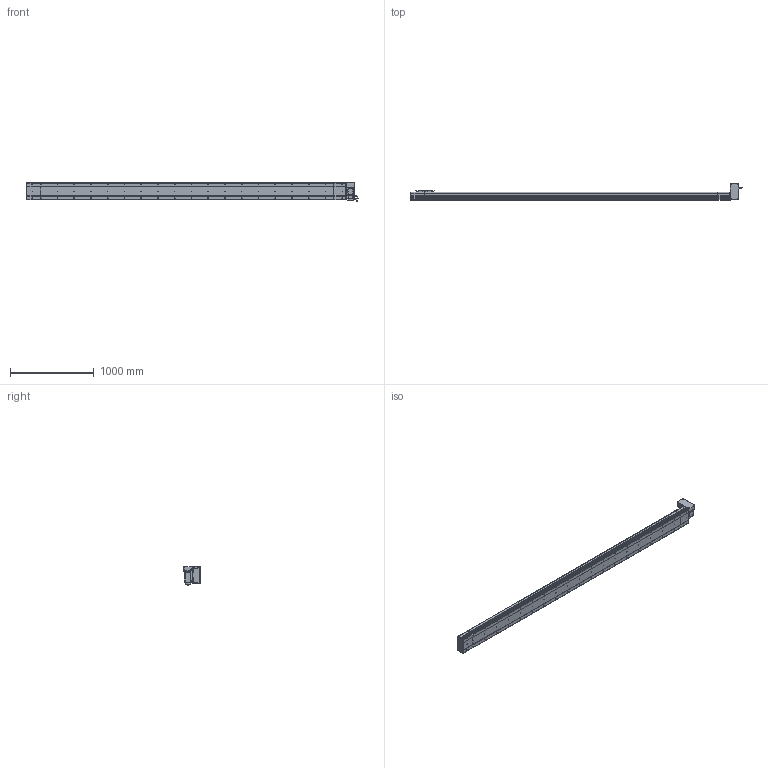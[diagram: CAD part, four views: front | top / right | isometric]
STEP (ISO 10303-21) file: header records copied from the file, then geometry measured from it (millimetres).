
FILE_DESCRIPTION (( 'STEP AP214' ), '1' );
FILE_NAME ('D20 CBH LT S3500.STEP', '2010-06-30T10:59:46', ( 'Conseil Régional Haute-Normandie' ), ( 'Conseil Régional Haute-Normandie' ), 'SwSTEP 2.0', 'SolidWorks 2010', '' );
FILE_SCHEMA (( 'AUTOMOTIVE_DESIGN' ));
Length unit declared in the file: millimetre
Products named in the file (31): Chariot D20_Default; Plaque de Bout Tail D20_Default; Corp D20 S3500_Default; Glissiere_Default; Corp Tail D20+100_Default; D20 CBH LT S3500; Corp S3500_Default; Couvercle_Default; Tail D20+100_Default; Couvercle S3500_Default; vis M5 L15_Default; Plaque De Serrage D20_Default; vis M5 L30_Default; ecrou_Default; Corp Tail D20 LT_Default; Plaque De Serrage D20 LT_Default; vis M5 L47_Default; Cache Support Moteur LT_Default; Conecteur_Default; Rondelle Cache D20 LT_Default; Conecteur2_Default; codeur 90BLDC125-640; Support Chariot D20_Default; Support moteur LT_Default; corps 90BLDC125A-640; avant 90BLDC125A-640; Couvercle LT_Default; Head LT_Default; Plaque de Bout Head D20 LT_Default; Moteur motionking 90BLDC125A-640
Assembly tree (66 placements, depth 4):
  D20 CBH LT S3500
    Head LT_Default
      vis M5 L15_Default  x12
      vis M5 L30_Default  x4
      Rondelle Cache D20 LT_Default  x3
      vis M5 L47_Default  x4
      ecrou_Default  x4
      Corp Tail D20 LT_Default
      Moteur motionking 90BLDC125A-640
        Conecteur_Default
        avant 90BLDC125A-640
        Conecteur2_Default
        corps 90BLDC125A-640
        codeur 90BLDC125-640
      Plaque de Bout Head D20 LT_Default
      Cache Support Moteur LT_Default
      Support moteur LT_Default
      Plaque De Serrage D20 LT_Default
      Couvercle LT_Default
    Chariot D20_Default
      Glissiere_Default
      vis M5 L15_Default  x8
      Support Chariot D20_Default
      Chariot D20_Default
    Tail D20+100_Default
      vis M5 L15_Default  x6
      Plaque De Serrage D20_Default
      Plaque de Bout Tail D20_Default
      Couvercle_Default
      Corp Tail D20+100_Default
    Corp D20 S3500_Default
      Couvercle S3500_Default
      Corp S3500_Default
Bounding box: 3963.45 x 202.5 x 229.7 mm (x, y, z)
Volume: 26322933.1 mm3; surface area: 5050242.5 mm2
Topology: 103 solids, 103 shells, 3858 faces, 9638 edges, 6268 vertices
Faces by surface type: plane 2125, bspline 806, cylinder 764, torus 91, cone 68, sphere 4
Entity records: 162958 total; most frequent: CARTESIAN_POINT 83608, ORIENTED_EDGE 15744, DIRECTION 12072, EDGE_CURVE 7872, VERTEX_POINT 5212, LINE 5012, VECTOR 5012, AXIS2_PLACEMENT_3D 3530
